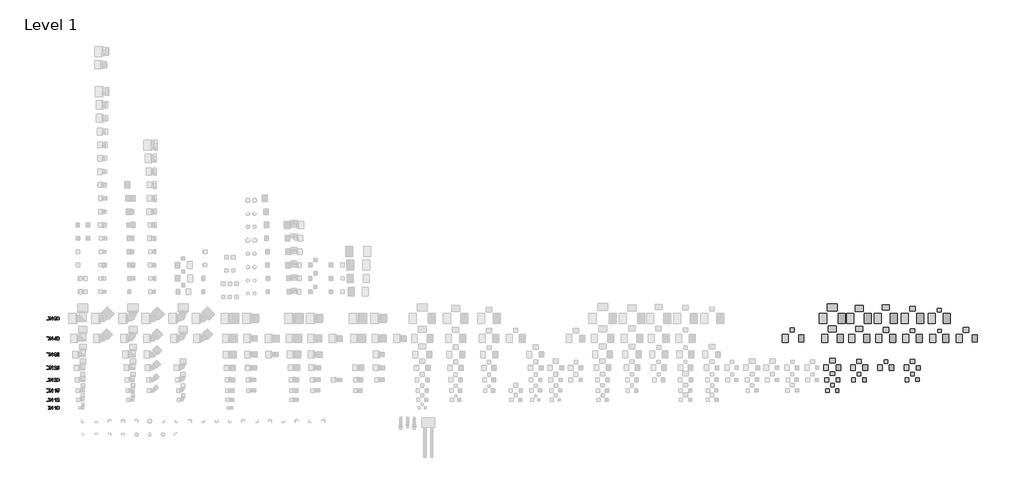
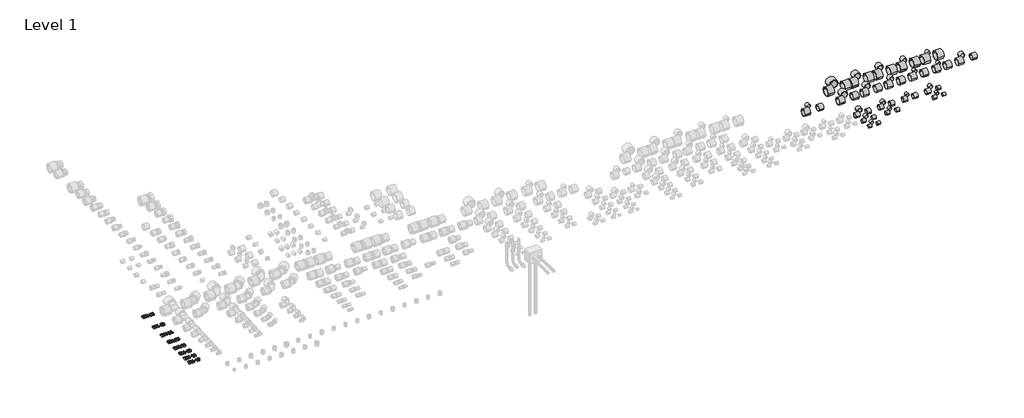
# One storey, part 6 of 6: 60 pipe fittings, 8 proxies.
"""IFC4 building model written with IfcOpenShell, lengths in millimetres."""

import ifcopenshell
import ifcopenshell.guid

model = None  # the IFC model being written
_history = None  # IfcOwnerHistory: only IFC2X3 demands one
_inside = {}  # id of a spatial element -> (the spatial element, [elements in it])
_under = {}  # id of a project, library or spatial element -> (it, [spatial elements below it])
_declared = {}  # id of a project -> (the project, [libraries it declares])
_typed = {}  # id of a type object -> (the type object, [elements of that type])
_made_of = {}  # id of a material, layer set ... -> (it, [elements and type objects made of it])


def new_model(schema):
    """Start an empty IFC model of exactly this schema.

    Asked for "IFC4X3", IfcOpenShell would pick the latest addendum, in which some entities
    have other attributes; the version numbers below select the first issue.
    IFC2X3 requires an IfcOwnerHistory on every rooted entity: one is made here for all.
    """
    global model, _history
    if schema == "IFC4X3":
        model = ifcopenshell.file(schema_version=(4, 3, 0, 0))
    else:
        model = ifcopenshell.file(schema=schema)
    _inside.clear()
    _under.clear()
    _declared.clear()
    _typed.clear()
    _made_of.clear()
    _history = None
    if model.schema == "IFC2X3":
        org = make("IfcOrganization", Name="unknown")
        user = make(
            "IfcPersonAndOrganization",
            ThePerson=make("IfcPerson", FamilyName="unknown"),
            TheOrganization=org,
        )
        app = make(
            "IfcApplication",
            ApplicationDeveloper=org,
            Version="unknown",
            ApplicationFullName="unknown",
            ApplicationIdentifier="unknown",
        )
        _history = make(
            "IfcOwnerHistory",
            OwningUser=user,
            OwningApplication=app,
            ChangeAction="ADDED",
            CreationDate=0,
        )
    return model


def make(cls, **values):
    """One entity of the class cls with the attributes given. An attribute that is None is left unset."""
    return model.create_entity(
        cls, **{name: value for name, value in values.items() if value is not None}
    )


def rooted(cls, **values):
    """An entity with a GlobalId (a new one), such as an element, a storey or a relation."""
    return make(cls, GlobalId=ifcopenshell.guid.new(), OwnerHistory=_history, **values)


def si_unit(unit_type, name, prefix=None):
    """IfcSIUnit, for example si_unit("LENGTHUNIT", "METRE", prefix="MILLI")."""
    return make("IfcSIUnit", UnitType=unit_type, Prefix=prefix, Name=name)


def assignment(units):
    """IfcUnitAssignment: the units of a project."""
    return None if units is None else make("IfcUnitAssignment", Units=units)


def point(xyz):
    """IfcCartesianPoint."""
    return None if xyz is None else make("IfcCartesianPoint", Coordinates=xyz)


def direction(xyz):
    """IfcDirection."""
    return None if xyz is None else make("IfcDirection", DirectionRatios=xyz)


def frame(location, z_axis=None, x_axis=None):
    """IfcAxis2Placement3D, a coordinate frame: its origin and axes. An axis left out is left unset."""
    return make(
        "IfcAxis2Placement3D",
        Location=point(location),
        Axis=direction(z_axis),
        RefDirection=direction(x_axis),
    )


def frame_2d(location, x_axis=None):
    """IfcAxis2Placement2D, a coordinate frame in the plane: its origin and x axis."""
    return make(
        "IfcAxis2Placement2D", Location=point(location), RefDirection=direction(x_axis)
    )


def origin():
    """The frame at (0, 0, 0) with its axes left unset."""
    return frame((0.0, 0.0, 0.0))


def origin_with_axes():
    """The frame at (0, 0, 0) with the z axis (0, 0, 1) and the x axis (1, 0, 0) written out."""
    return frame((0.0, 0.0, 0.0), z_axis=(0.0, 0.0, 1.0), x_axis=(1.0, 0.0, 0.0))


def origin_2d():
    """The frame at (0, 0) in the plane with its x axis left unset."""
    return frame_2d((0.0, 0.0))


def place(relative_to, where):
    """IfcLocalPlacement: puts the frame where relative to a parent placement (None: the world)."""
    return make(
        "IfcLocalPlacement", PlacementRelTo=relative_to, RelativePlacement=where
    )


def context(
    kind, dimensions, precision=None, world=None, true_north=None, identifier=None
):
    """IfcGeometricRepresentationContext, for example the 3D "Model" context."""
    return make(
        "IfcGeometricRepresentationContext",
        ContextIdentifier=identifier,
        ContextType=kind,
        CoordinateSpaceDimension=dimensions,
        Precision=precision,
        WorldCoordinateSystem=world,
        TrueNorth=true_north,
    )


def project(units=None, contexts=None):
    """IfcProject with its units and contexts."""
    return rooted(
        "IfcProject",
        Name="project",
        RepresentationContexts=contexts,
        UnitsInContext=assignment(units),
    )


def spatial(cls, under=None, at=None, **own):
    """A site, building, storey or space (cls), placed at a placement, below another one or the project."""
    s = rooted(cls, ObjectPlacement=at, **own)
    if under is not None:
        _under.setdefault(under.id(), (under, []))[1].append(s)
    return s


def polyline(points):
    """IfcPolyline through the points."""
    return make("IfcPolyline", Points=[point(p) for p in points])


def circle_curve(where, radius):
    """IfcCircle in the frame where."""
    return make("IfcCircle", Position=where, Radius=radius)


def trimmed(basis, trim1, trim2, sense, master):
    """IfcTrimmedCurve: the piece of a basis curve between two trims."""
    return make(
        "IfcTrimmedCurve",
        BasisCurve=basis,
        Trim1=trim1,
        Trim2=trim2,
        SenseAgreement=sense,
        MasterRepresentation=master,
    )


def segment(curve, same_sense, transition):
    """IfcCompositeCurveSegment."""
    return make(
        "IfcCompositeCurveSegment",
        Transition=transition,
        SameSense=same_sense,
        ParentCurve=curve,
    )


def composite_curve(segments, self_intersect=None):
    """IfcCompositeCurve: segments joined end to end."""
    return make("IfcCompositeCurve", Segments=segments, SelfIntersect=self_intersect)


def outline(outer, holes=None, kind="AREA"):
    """IfcArbitraryClosedProfileDef: a profile drawn as a closed curve; with holes, ...WithVoids."""
    if holes is None:
        return make("IfcArbitraryClosedProfileDef", ProfileType=kind, OuterCurve=outer)
    return make(
        "IfcArbitraryProfileDefWithVoids",
        ProfileType=kind,
        OuterCurve=outer,
        InnerCurves=holes,
    )


def extrude(swept, where, along, depth):
    """IfcExtrudedAreaSolid: the profile swept, set in the frame where, extruded along a direction by depth."""
    return make(
        "IfcExtrudedAreaSolid",
        SweptArea=swept,
        Position=where,
        ExtrudedDirection=direction(along),
        Depth=depth,
    )


def shape(context_of_items, identifier, shape_type, items):
    """IfcShapeRepresentation: the items that make up one representation, for example the "Body"."""
    return make(
        "IfcShapeRepresentation",
        ContextOfItems=context_of_items,
        RepresentationIdentifier=identifier,
        RepresentationType=shape_type,
        Items=items,
    )


def source(mapping_origin, context_of_items, identifier, shape_type, items):
    """IfcRepresentationMap: a shape defined once, which mapped items show again and again."""
    return make(
        "IfcRepresentationMap",
        MappingOrigin=mapping_origin,
        MappedRepresentation=shape(context_of_items, identifier, shape_type, items),
    )


def transform(
    local_origin,
    x_axis=None,
    y_axis=None,
    z_axis=None,
    scale=None,
    scale2=None,
    scale3=None,
    uniform=True,
):
    """IfcCartesianTransformationOperator3D, or its non-uniform kind. x_axis, y_axis, z_axis: its Axis1, 2, 3."""
    if uniform:
        return make(
            "IfcCartesianTransformationOperator3D",
            Axis1=direction(x_axis),
            Axis2=direction(y_axis),
            LocalOrigin=point(local_origin),
            Scale=scale,
            Axis3=direction(z_axis),
        )
    return make(
        "IfcCartesianTransformationOperator3DnonUniform",
        Axis1=direction(x_axis),
        Axis2=direction(y_axis),
        LocalOrigin=point(local_origin),
        Scale=scale,
        Axis3=direction(z_axis),
        Scale2=scale2,
        Scale3=scale3,
    )


def mapped(mapping_source, mapping_target):
    """IfcMappedItem: shows the shape of a source again, moved by a transform."""
    return make(
        "IfcMappedItem", MappingSource=mapping_source, MappingTarget=mapping_target
    )


def made_of(thing, what):
    """Note that an element or type object is made of a material, layer set ...; save() writes the relation."""
    if what is not None:
        _made_of.setdefault(what.id(), (what, []))[1].append(thing)
    return thing


def element(
    cls,
    number,
    at=None,
    inside=None,
    cuts=None,
    type_object=None,
    material=None,
    context=None,
    identifier="Body",
    shape_type=None,
    held_by="IfcProductDefinitionShape",
    body=None,
    shapes=None,
    **own,
):
    """One element of the class cls, such as IfcWall. Its Tag is "e" and its number.

    at: its placement. inside: the storey or other place that contains it. cuts: it is an
    opening in that element (IfcRelVoidsElement). A single representation is given by context,
    identifier, shape_type and body (its items); several are given by shapes. held_by: the class
    of the entity that holds the representations. save() writes the other relations.
    """
    e = rooted(cls, Tag="e%d" % number, ObjectPlacement=at, **own)
    if body is not None:
        shapes = [shape(context, identifier, shape_type, body)]
    if shapes is not None:
        e.Representation = make(held_by, Representations=shapes)
    if inside is not None:
        _inside.setdefault(inside.id(), (inside, []))[1].append(e)
    if cuts is not None:
        rooted(
            "IfcRelVoidsElement", RelatingBuildingElement=cuts, RelatedOpeningElement=e
        )
    if type_object is not None:
        _typed.setdefault(type_object.id(), (type_object, []))[1].append(e)
    return made_of(e, material)


def aggregate(whole, parts):
    """IfcRelAggregates: a whole, such as a stair, and the parts it consists of."""
    return rooted("IfcRelAggregates", RelatingObject=whole, RelatedObjects=parts)


def save(model, path):
    """Write the relations noted so far, then the file.

    IfcRelAggregates (storeys below a building ...), IfcRelContainedInSpatialStructure (elements
    in a storey), IfcRelDefinesByType, IfcRelAssociatesMaterial and IfcRelDeclares: one each for
    every whole, place, type object, material and project.
    """
    for whole, parts in _under.values():
        aggregate(whole, parts)
    for where, things in _inside.values():
        rooted(
            "IfcRelContainedInSpatialStructure",
            RelatedElements=things,
            RelatingStructure=where,
        )
    for kind, things in _typed.values():
        rooted("IfcRelDefinesByType", RelatedObjects=things, RelatingType=kind)
    for what, things in _made_of.values():
        rooted("IfcRelAssociatesMaterial", RelatedObjects=things, RelatingMaterial=what)
    for by, libraries in _declared.values():
        rooted("IfcRelDeclares", RelatingContext=by, RelatedDefinitions=libraries)
    model.write(path)


def pipe_fitting_749d9a03(model_context):
    return source(origin(), model_context, "Body", "SweptSolid", [
        extrude(outline(composite_curve([segment(trimmed(circle_curve(origin_2d(), 13.15), [point((-13.15, 0.0))], [point((13.15, 0.0))], False, "CARTESIAN"), True, "CONTINUOUS"), segment(trimmed(circle_curve(origin_2d(), 13.15), [point((13.15, 0.0))], [point((-13.15, 0.0))], False, "CARTESIAN"), True, "CONTINUOUS")], self_intersect=False), holes=[composite_curve([segment(trimmed(circle_curve(origin_2d(), 10.35), [point((-10.35, 0.0))], [point((10.35, 0.0))], True, "CARTESIAN"), True, "CONTINUOUS"), segment(trimmed(circle_curve(origin_2d(), 10.35), [point((10.35, 0.0))], [point((-10.35, 0.0))], True, "CARTESIAN"), True, "CONTINUOUS")], self_intersect=False)]), frame((0.0, 0.0, 0.0), z_axis=(1.0, 0.0, 0.0), x_axis=(0.0, 1.0, 0.0)), (0.0, 0.0, 1.0), 25.0),
    ])


def pipe_fitting_037c3912(model_context):
    return source(origin(), model_context, "Body", "SweptSolid", [
        extrude(outline(composite_curve([segment(trimmed(circle_curve(origin_2d(), 16.3), [point((-16.3, 0.0))], [point((16.3, 0.0))], False, "CARTESIAN"), True, "CONTINUOUS"), segment(trimmed(circle_curve(origin_2d(), 16.3), [point((16.3, 0.0))], [point((-16.3, 0.0))], False, "CARTESIAN"), True, "CONTINUOUS")], self_intersect=False), holes=[composite_curve([segment(trimmed(circle_curve(origin_2d(), 12.8), [point((-12.8, 0.0))], [point((12.8, 0.0))], True, "CARTESIAN"), True, "CONTINUOUS"), segment(trimmed(circle_curve(origin_2d(), 12.8), [point((12.8, 0.0))], [point((-12.8, 0.0))], True, "CARTESIAN"), True, "CONTINUOUS")], self_intersect=False)]), frame((0.0, 0.0, 0.0), z_axis=(1.0, 0.0, 0.0), x_axis=(0.0, 1.0, 0.0)), (0.0, 0.0, 1.0), 27.2),
    ])


def pipe_fitting_a8fbe6ac(model_context):
    return source(origin(), model_context, "Body", "SweptSolid", [
        extrude(outline(composite_curve([segment(trimmed(circle_curve(origin_2d(), 20.75), [point((-20.75, 0.0))], [point((20.75, 0.0))], False, "CARTESIAN"), True, "CONTINUOUS"), segment(trimmed(circle_curve(origin_2d(), 20.75), [point((20.75, 0.0))], [point((-20.75, 0.0))], False, "CARTESIAN"), True, "CONTINUOUS")], self_intersect=False), holes=[composite_curve([segment(trimmed(circle_curve(origin_2d(), 16.35), [point((-16.35, 0.0))], [point((16.35, 0.0))], True, "CARTESIAN"), True, "CONTINUOUS"), segment(trimmed(circle_curve(origin_2d(), 16.35), [point((16.35, 0.0))], [point((-16.35, 0.0))], True, "CARTESIAN"), True, "CONTINUOUS")], self_intersect=False)]), frame((0.0, 0.0, 0.0), z_axis=(1.0, 0.0, 0.0), x_axis=(0.0, 1.0, 0.0)), (0.0, 0.0, 1.0), 34.0),
    ])


def pipe_fitting_d8f8e9d9(model_context):
    return source(origin(), model_context, "Body", "SweptSolid", [
        extrude(outline(composite_curve([segment(trimmed(circle_curve(origin_2d(), 25.95), [point((-25.95, 0.0))], [point((25.95, 0.0))], False, "CARTESIAN"), True, "CONTINUOUS"), segment(trimmed(circle_curve(origin_2d(), 25.95), [point((25.95, 0.0))], [point((-25.95, 0.0))], False, "CARTESIAN"), True, "CONTINUOUS")], self_intersect=False), holes=[composite_curve([segment(trimmed(circle_curve(origin_2d(), 20.45), [point((-20.45, 0.0))], [point((20.45, 0.0))], True, "CARTESIAN"), True, "CONTINUOUS"), segment(trimmed(circle_curve(origin_2d(), 20.45), [point((20.45, 0.0))], [point((-20.45, 0.0))], True, "CARTESIAN"), True, "CONTINUOUS")], self_intersect=False)]), frame((0.0, 0.0, 0.0), z_axis=(1.0, 0.0, 0.0), x_axis=(0.0, 1.0, 0.0)), (0.0, 0.0, 1.0), 37.8),
    ])


def pipe_fitting_02b715f6(model_context):
    return source(origin(), model_context, "Body", "SweptSolid", [
        extrude(outline(composite_curve([segment(trimmed(circle_curve(origin_2d(), 30.05), [point((-30.05, 0.0))], [point((30.05, 0.0))], False, "CARTESIAN"), True, "CONTINUOUS"), segment(trimmed(circle_curve(origin_2d(), 30.05), [point((30.05, 0.0))], [point((-30.05, 0.0))], False, "CARTESIAN"), True, "CONTINUOUS")], self_intersect=False), holes=[composite_curve([segment(trimmed(circle_curve(origin_2d(), 25.55), [point((-25.55, 0.0))], [point((25.55, 0.0))], True, "CARTESIAN"), True, "CONTINUOUS"), segment(trimmed(circle_curve(origin_2d(), 25.55), [point((25.55, 0.0))], [point((-25.55, 0.0))], True, "CARTESIAN"), True, "CONTINUOUS")], self_intersect=False)]), frame((0.0, 0.0, 0.0), z_axis=(1.0, 0.0, 0.0), x_axis=(0.0, 1.0, 0.0)), (0.0, 0.0, 1.0), 45.0),
    ])


def pipe_fitting_7a5bf8d1(model_context):
    return source(origin(), model_context, "Body", "SweptSolid", [
        extrude(outline(composite_curve([segment(trimmed(circle_curve(origin_2d(), 38.15), [point((-38.15, 0.0))], [point((38.15, 0.0))], False, "CARTESIAN"), True, "CONTINUOUS"), segment(trimmed(circle_curve(origin_2d(), 38.15), [point((38.15, 0.0))], [point((-38.15, 0.0))], False, "CARTESIAN"), True, "CONTINUOUS")], self_intersect=False), holes=[composite_curve([segment(trimmed(circle_curve(origin_2d(), 32.15), [point((-32.15, 0.0))], [point((32.15, 0.0))], True, "CARTESIAN"), True, "CONTINUOUS"), segment(trimmed(circle_curve(origin_2d(), 32.15), [point((32.15, 0.0))], [point((-32.15, 0.0))], True, "CARTESIAN"), True, "CONTINUOUS")], self_intersect=False)]), frame((0.0, 0.0, 0.0), z_axis=(1.0, 0.0, 0.0), x_axis=(0.0, 1.0, 0.0)), (0.0, 0.0, 1.0), 53.0),
    ])


model = new_model("IFC4")

# Units and contexts
model_context = context("Model", 3, world=origin())
ifc_project = project(units=[si_unit("LENGTHUNIT", "METRE", prefix="MILLI")], contexts=[model_context])

# Site, building, storey
site = spatial("IfcSite", under=ifc_project)
building = spatial("IfcBuilding", under=site)
storey = spatial("IfcBuildingStorey", under=building, Name="Level 1", Elevation=0.0)

# Proxies
placement = place(None, origin())
element("IfcBuildingElementProxy", 1, Name="REHAU text", ObjectType="REHAU text", at=placement, inside=storey, context=model_context, shape_type="SweptSolid", body=[
    extrude(outline(polyline([(-272.2922223, -12.5), (-272.2922223, 12.6140775), (-263.6286013, 12.6140775), (-259.1465723, 12.2523269), (-255.4554896, 10.4558365), (-252.4817768, 6.1638799), (-251.4946268, 0.1919288), (-252.1629458, -4.8756456), (-253.8797284, -8.5330058), (-256.1728595, -10.8108085), (-259.1741635, -12.0708043), (-263.2116683, -12.5), (-272.2922223, -12.5)]), holes=[polyline([(-269.1529626, -9.3607403), (-263.5979444, -9.3607403), (-259.5573739, -8.9070192), (-257.2274546, -7.6255636), (-255.3175339, -4.5077637), (-254.6338865, 0.2409798), (-255.9735901, 6.1884054), (-259.2324114, 8.9720458), (-263.6837836, 9.4748178), (-269.1529626, 9.4748178), (-269.1529626, -9.3607403)])]), origin_with_axes(), (0.0, 0.0, 1.0), 10.0),
    extrude(outline(polyline([(-247.1781447, -12.5), (-247.1781447, 12.6140775), (-243.8181558, 12.6140775), (-230.6970313, -7.282207), (-230.6970313, 12.6140775), (-227.5577716, 12.6140775), (-227.5577716, -12.5), (-230.9177605, -12.5), (-244.038885, 7.4024159), (-244.038885, -12.5), (-247.1781447, -12.5)])), origin_with_axes(), (0.0, 0.0, 1.0), 10.0),
    extrude(outline(polyline([(-201.6588792, -12.5), (-204.7981389, -12.5), (-204.7981389, 7.0713221), (-207.7718517, 4.952935), (-211.0766583, 3.3679767), (-211.0766583, 6.3355582), (-206.4750676, 9.2724827), (-203.6822302, 12.6140775), (-201.6588792, 12.6140775), (-201.6588792, -12.5)])), origin_with_axes(), (0.0, 0.0, 1.0), 10.0),
    extrude(outline(polyline([(-194.2031374, -0.1452963), (-193.2803667, 7.0805192), (-190.5396459, 11.2467828), (-185.9625807, 12.6140775), (-182.2960235, 11.8047371), (-179.7637691, 9.4717522), (-178.2922411, 5.756144), (-177.722024, -0.1452963), (-178.6355977, -7.340455), (-181.3671215, -11.5159157), (-185.9625807, -12.8924075), (-191.7015399, -10.5011745), (-194.2031374, -0.1452963)]), holes=[polyline([(-191.0638777, -0.139165), (-189.5923497, -7.9351976), (-185.9625807, -9.7531478), (-182.3328117, -7.9290662), (-180.8612837, -0.139165), (-182.2837608, 7.5679628), (-185.9993689, 9.4748178), (-189.5432988, 7.7948234), (-191.0638777, -0.139165)])]), origin_with_axes(), (0.0, 0.0, 1.0), 10.0),
])
element("IfcBuildingElementProxy", 2, Name="REHAU text", ObjectType="REHAU text", at=placement, inside=storey, context=model_context, shape_type="SweptSolid", body=[
    extrude(outline(polyline([(-272.2922223, 47.5), (-272.2922223, 72.6140775), (-263.6286013, 72.6140775), (-259.1465723, 72.2523269), (-255.4554896, 70.4558365), (-252.4817768, 66.1638799), (-251.4946268, 60.1919288), (-252.1629458, 55.1243544), (-253.8797284, 51.4669942), (-256.1728595, 49.1891915), (-259.1741635, 47.9291957), (-263.2116683, 47.5), (-272.2922223, 47.5)]), holes=[polyline([(-269.1529626, 50.6392597), (-263.5979444, 50.6392597), (-259.5573739, 51.0929808), (-257.2274546, 52.3744364), (-255.3175339, 55.4922363), (-254.6338865, 60.2409798), (-255.9735901, 66.1884054), (-259.2324114, 68.9720458), (-263.6837836, 69.4748178), (-269.1529626, 69.4748178), (-269.1529626, 50.6392597)])]), origin_with_axes(), (0.0, 0.0, 1.0), 10.0),
    extrude(outline(polyline([(-247.1781447, 47.5), (-247.1781447, 72.6140775), (-243.8181558, 72.6140775), (-230.6970313, 52.717793), (-230.6970313, 72.6140775), (-227.5577716, 72.6140775), (-227.5577716, 47.5), (-230.9177605, 47.5), (-244.038885, 67.4024159), (-244.038885, 47.5), (-247.1781447, 47.5)])), origin_with_axes(), (0.0, 0.0, 1.0), 10.0),
    extrude(outline(polyline([(-201.6588792, 47.5), (-204.7981389, 47.5), (-204.7981389, 67.0713221), (-207.7718517, 64.952935), (-211.0766583, 63.3679767), (-211.0766583, 66.3355582), (-206.4750676, 69.2724827), (-203.6822302, 72.6140775), (-201.6588792, 72.6140775), (-201.6588792, 47.5)])), origin_with_axes(), (0.0, 0.0, 1.0), 10.0),
    extrude(outline(polyline([(-178.1144315, 50.6392597), (-178.1144315, 47.5), (-194.5955449, 47.5), (-194.2583197, 49.6643724), (-192.3514647, 52.9967701), (-188.4212587, 56.6357362), (-183.0011307, 61.8657919), (-181.6460987, 65.4219845), (-182.9244886, 68.3006611), (-186.2630177, 69.4748178), (-189.7425682, 68.3282523), (-191.0638777, 65.1583358), (-194.2031374, 65.5507432), (-191.796576, 70.8053244), (-186.1955727, 72.6140775), (-180.5761752, 70.6029893), (-178.506839, 65.6120569), (-179.0647933, 62.6352784), (-180.9195317, 59.5573324), (-185.4168891, 55.2561787), (-189.028264, 52.2364807), (-190.4446097, 50.6392597), (-178.1144315, 50.6392597)])), origin_with_axes(), (0.0, 0.0, 1.0), 10.0),
])
element("IfcBuildingElementProxy", 3, Name="REHAU text", ObjectType="REHAU text", at=placement, inside=storey, context=model_context, shape_type="SweptSolid", body=[
    extrude(outline(polyline([(-272.2922223, 117.5), (-272.2922223, 142.6140775), (-263.6286013, 142.6140775), (-259.1465723, 142.2523269), (-255.4554896, 140.4558365), (-252.4817768, 136.1638799), (-251.4946268, 130.1919288), (-252.1629458, 125.1243544), (-253.8797284, 121.4669942), (-256.1728595, 119.1891915), (-259.1741635, 117.9291957), (-263.2116683, 117.5), (-272.2922223, 117.5)]), holes=[polyline([(-269.1529626, 120.6392597), (-263.5979444, 120.6392597), (-259.5573739, 121.0929808), (-257.2274546, 122.3744364), (-255.3175339, 125.4922363), (-254.6338865, 130.2409798), (-255.9735901, 136.1884054), (-259.2324114, 138.9720458), (-263.6837836, 139.4748178), (-269.1529626, 139.4748178), (-269.1529626, 120.6392597)])]), origin_with_axes(), (0.0, 0.0, 1.0), 10.0),
    extrude(outline(polyline([(-247.1781447, 117.5), (-247.1781447, 142.6140775), (-243.8181558, 142.6140775), (-230.6970313, 122.717793), (-230.6970313, 142.6140775), (-227.5577716, 142.6140775), (-227.5577716, 117.5), (-230.9177605, 117.5), (-244.038885, 137.4024159), (-244.038885, 117.5), (-247.1781447, 117.5)])), origin_with_axes(), (0.0, 0.0, 1.0), 10.0),
    extrude(outline(polyline([(-201.6588792, 117.5), (-204.7981389, 117.5), (-204.7981389, 137.0713221), (-207.7718517, 134.952935), (-211.0766583, 133.3679767), (-211.0766583, 136.3355582), (-206.4750676, 139.2724827), (-203.6822302, 142.6140775), (-201.6588792, 142.6140775), (-201.6588792, 117.5)])), origin_with_axes(), (0.0, 0.0, 1.0), 10.0),
    extrude(outline(polyline([(-194.2031374, 124.1709268), (-191.0638777, 124.5633343), (-189.4819851, 121.3290384), (-186.201704, 120.2468522), (-182.2653667, 121.7521027), (-180.8612837, 125.7466881), (-182.1764619, 129.4745589), (-186.1526531, 130.8418537), (-188.9087024, 130.2961621), (-190.6714703, 128.8798164), (-193.81073, 129.2722238), (-191.0638777, 142.2216701), (-178.8992464, 142.2216701), (-178.8992464, 139.0824104), (-188.525492, 139.0824104), (-189.8682612, 132.1662289), (-185.2758677, 133.9811134), (-179.9078562, 131.7309018), (-177.722024, 125.9428918), (-179.6901927, 120.1180935), (-186.2139668, 117.1075925), (-191.7536565, 119.0420387), (-194.2031374, 124.1709268)])), origin_with_axes(), (0.0, 0.0, 1.0), 10.0),
])
element("IfcBuildingElementProxy", 4, Name="REHAU text", ObjectType="REHAU text", at=placement, inside=storey, context=model_context, shape_type="SweptSolid", body=[
    extrude(outline(polyline([(-272.2922223, 197.5), (-272.2922223, 222.6140775), (-263.6286013, 222.6140775), (-259.1465723, 222.2523269), (-255.4554896, 220.4558365), (-252.4817768, 216.1638799), (-251.4946268, 210.1919288), (-252.1629458, 205.1243544), (-253.8797284, 201.4669942), (-256.1728595, 199.1891915), (-259.1741635, 197.9291957), (-263.2116683, 197.5), (-272.2922223, 197.5)]), holes=[polyline([(-269.1529626, 200.6392597), (-263.5979444, 200.6392597), (-259.5573739, 201.0929808), (-257.2274546, 202.3744364), (-255.3175339, 205.4922363), (-254.6338865, 210.2409798), (-255.9735901, 216.1884054), (-259.2324114, 218.9720458), (-263.6837836, 219.4748178), (-269.1529626, 219.4748178), (-269.1529626, 200.6392597)])]), origin_with_axes(), (0.0, 0.0, 1.0), 10.0),
    extrude(outline(polyline([(-247.1781447, 197.5), (-247.1781447, 222.6140775), (-243.8181558, 222.6140775), (-230.6970313, 202.717793), (-230.6970313, 222.6140775), (-227.5577716, 222.6140775), (-227.5577716, 197.5), (-230.9177605, 197.5), (-244.038885, 217.4024159), (-244.038885, 197.5), (-247.1781447, 197.5)])), origin_with_axes(), (0.0, 0.0, 1.0), 10.0),
    extrude(outline(polyline([(-197.3423971, 200.6392597), (-197.3423971, 197.5), (-213.8235105, 197.5), (-213.4862853, 199.6643724), (-211.5794303, 202.9967701), (-207.6492243, 206.6357362), (-202.2290963, 211.8657919), (-200.8740643, 215.4219845), (-202.1524542, 218.3006611), (-205.4909833, 219.4748178), (-208.9705338, 218.3282523), (-210.2918433, 215.1583358), (-213.431103, 215.5507432), (-211.0245416, 220.8053244), (-205.4235383, 222.6140775), (-199.8041408, 220.6029893), (-197.7348046, 215.6120569), (-198.2927589, 212.6352784), (-200.1474973, 209.5573324), (-204.6448547, 205.2561787), (-208.2562296, 202.2364807), (-209.6725753, 200.6392597), (-197.3423971, 200.6392597)])), origin_with_axes(), (0.0, 0.0, 1.0), 10.0),
    extrude(outline(polyline([(-194.2031374, 209.8547037), (-193.2803667, 217.0805192), (-190.5396459, 221.2467828), (-185.9625807, 222.6140775), (-182.2960235, 221.8047371), (-179.7637691, 219.4717522), (-178.2922411, 215.756144), (-177.722024, 209.8547037), (-178.6355977, 202.659545), (-181.3671215, 198.4840843), (-185.9625807, 197.1075925), (-191.7015399, 199.4988255), (-194.2031374, 209.8547037)]), holes=[polyline([(-191.0638777, 209.860835), (-189.5923497, 202.0648024), (-185.9625807, 200.2468522), (-182.3328117, 202.0709338), (-180.8612837, 209.860835), (-182.2837608, 217.5679628), (-185.9993689, 219.4748178), (-189.5432988, 217.7948234), (-191.0638777, 209.860835)])]), origin_with_axes(), (0.0, 0.0, 1.0), 10.0),
])
element("IfcBuildingElementProxy", 5, Name="REHAU text", ObjectType="REHAU text", at=placement, inside=storey, context=model_context, shape_type="SweptSolid", body=[
    extrude(outline(polyline([(-272.2922223, 287.5), (-272.2922223, 312.6140775), (-263.6286013, 312.6140775), (-259.1465723, 312.2523269), (-255.4554896, 310.4558365), (-252.4817768, 306.1638799), (-251.4946268, 300.1919288), (-252.1629458, 295.1243544), (-253.8797284, 291.4669942), (-256.1728595, 289.1891915), (-259.1741635, 287.9291957), (-263.2116683, 287.5), (-272.2922223, 287.5)]), holes=[polyline([(-269.1529626, 290.6392597), (-263.5979444, 290.6392597), (-259.5573739, 291.0929808), (-257.2274546, 292.3744364), (-255.3175339, 295.4922363), (-254.6338865, 300.2409798), (-255.9735901, 306.1884054), (-259.2324114, 308.9720458), (-263.6837836, 309.4748178), (-269.1529626, 309.4748178), (-269.1529626, 290.6392597)])]), origin_with_axes(), (0.0, 0.0, 1.0), 10.0),
    extrude(outline(polyline([(-247.1781447, 287.5), (-247.1781447, 312.6140775), (-243.8181558, 312.6140775), (-230.6970313, 292.717793), (-230.6970313, 312.6140775), (-227.5577716, 312.6140775), (-227.5577716, 287.5), (-230.9177605, 287.5), (-244.038885, 307.4024159), (-244.038885, 287.5), (-247.1781447, 287.5)])), origin_with_axes(), (0.0, 0.0, 1.0), 10.0),
    extrude(outline(polyline([(-197.3423971, 290.6392597), (-197.3423971, 287.5), (-213.8235105, 287.5), (-213.4862853, 289.6643724), (-211.5794303, 292.9967701), (-207.6492243, 296.6357362), (-202.2290963, 301.8657919), (-200.8740643, 305.4219845), (-202.1524542, 308.3006611), (-205.4909833, 309.4748178), (-208.9705338, 308.3282523), (-210.2918433, 305.1583358), (-213.431103, 305.5507432), (-211.0245416, 310.8053244), (-205.4235383, 312.6140775), (-199.8041408, 310.6029893), (-197.7348046, 305.6120569), (-198.2927589, 302.6352784), (-200.1474973, 299.5573324), (-204.6448547, 295.2561787), (-208.2562296, 292.2364807), (-209.6725753, 290.6392597), (-197.3423971, 290.6392597)])), origin_with_axes(), (0.0, 0.0, 1.0), 10.0),
    extrude(outline(polyline([(-194.2031374, 294.1709268), (-191.0638777, 294.5633343), (-189.4819851, 291.3290384), (-186.201704, 290.2468522), (-182.2653667, 291.7521027), (-180.8612837, 295.7466881), (-182.1764619, 299.4745589), (-186.1526531, 300.8418537), (-188.9087024, 300.2961621), (-190.6714703, 298.8798164), (-193.81073, 299.2722238), (-191.0638777, 312.2216701), (-178.8992464, 312.2216701), (-178.8992464, 309.0824104), (-188.525492, 309.0824104), (-189.8682612, 302.1662289), (-185.2758677, 303.9811134), (-179.9078562, 301.7309018), (-177.722024, 295.9428918), (-179.6901927, 290.1180935), (-186.2139668, 287.1075925), (-191.7536565, 289.0420387), (-194.2031374, 294.1709268)])), origin_with_axes(), (0.0, 0.0, 1.0), 10.0),
])
element("IfcBuildingElementProxy", 6, Name="REHAU text", ObjectType="REHAU text", at=placement, inside=storey, context=model_context, shape_type="SweptSolid", body=[
    extrude(outline(polyline([(-272.2922223, 387.5), (-272.2922223, 412.6140775), (-263.6286013, 412.6140775), (-259.1465723, 412.2523269), (-255.4554896, 410.4558365), (-252.4817768, 406.1638799), (-251.4946268, 400.1919288), (-252.1629458, 395.1243544), (-253.8797284, 391.4669942), (-256.1728595, 389.1891915), (-259.1741635, 387.9291957), (-263.2116683, 387.5), (-272.2922223, 387.5)]), holes=[polyline([(-269.1529626, 390.6392597), (-263.5979444, 390.6392597), (-259.5573739, 391.0929808), (-257.2274546, 392.3744364), (-255.3175339, 395.4922363), (-254.6338865, 400.2409798), (-255.9735901, 406.1884054), (-259.2324114, 408.9720458), (-263.6837836, 409.4748178), (-269.1529626, 409.4748178), (-269.1529626, 390.6392597)])]), origin_with_axes(), (0.0, 0.0, 1.0), 10.0),
    extrude(outline(polyline([(-247.1781447, 387.5), (-247.1781447, 412.6140775), (-243.8181558, 412.6140775), (-230.6970313, 392.717793), (-230.6970313, 412.6140775), (-227.5577716, 412.6140775), (-227.5577716, 387.5), (-230.9177605, 387.5), (-244.038885, 407.4024159), (-244.038885, 387.5), (-247.1781447, 387.5)])), origin_with_axes(), (0.0, 0.0, 1.0), 10.0),
    extrude(outline(polyline([(-213.431103, 394.1709268), (-210.2918433, 394.5633343), (-208.5597323, 391.2585277), (-205.319305, 390.2468522), (-201.505595, 391.6386724), (-200.0892493, 395.0845005), (-201.4933323, 398.3310591), (-205.0617876, 399.6155804), (-207.2629482, 399.2722238), (-206.9134604, 402.4114835), (-202.8483643, 403.2760062), (-201.2664717, 406.0473839), (-202.4130373, 408.5029962), (-205.368356, 409.4748178), (-208.3604629, 408.4937992), (-209.8994359, 405.5507432), (-213.0386956, 405.9431507), (-210.469653, 410.8666381), (-205.4787206, 412.6140775), (-201.6926017, 411.7526205), (-199.0438513, 409.3981758), (-198.127212, 406.2313249), (-198.9978661, 403.3373199), (-201.5730401, 401.2587866), (-198.1517375, 399.1128083), (-196.9499897, 395.0293182), (-199.3534854, 389.4129864), (-205.4296696, 387.1075925), (-210.9356368, 389.0757612), (-213.431103, 394.1709268)])), origin_with_axes(), (0.0, 0.0, 1.0), 10.0),
    extrude(outline(polyline([(-178.1144315, 390.6392597), (-178.1144315, 387.5), (-194.5955449, 387.5), (-194.2583197, 389.6643724), (-192.3514647, 392.9967701), (-188.4212587, 396.6357362), (-183.0011307, 401.8657919), (-181.6460987, 405.4219845), (-182.9244886, 408.3006611), (-186.2630177, 409.4748178), (-189.7425682, 408.3282523), (-191.0638777, 405.1583358), (-194.2031374, 405.5507432), (-191.796576, 410.8053244), (-186.1955727, 412.6140775), (-180.5761752, 410.6029893), (-178.506839, 405.6120569), (-179.0647933, 402.6352784), (-180.9195317, 399.5573324), (-185.4168891, 395.2561787), (-189.028264, 392.2364807), (-190.4446097, 390.6392597), (-178.1144315, 390.6392597)])), origin_with_axes(), (0.0, 0.0, 1.0), 10.0),
])
element("IfcBuildingElementProxy", 7, Name="REHAU text", ObjectType="REHAU text", at=placement, inside=storey, context=model_context, shape_type="SweptSolid", body=[
    extrude(outline(polyline([(-272.2922223, 507.5), (-272.2922223, 532.6140775), (-263.6286013, 532.6140775), (-259.1465723, 532.2523269), (-255.4554896, 530.4558365), (-252.4817768, 526.1638799), (-251.4946268, 520.1919288), (-252.1629458, 515.1243544), (-253.8797284, 511.4669942), (-256.1728595, 509.1891915), (-259.1741635, 507.9291957), (-263.2116683, 507.5), (-272.2922223, 507.5)]), holes=[polyline([(-269.1529626, 510.6392597), (-263.5979444, 510.6392597), (-259.5573739, 511.0929808), (-257.2274546, 512.3744364), (-255.3175339, 515.4922363), (-254.6338865, 520.2409798), (-255.9735901, 526.1884054), (-259.2324114, 528.9720458), (-263.6837836, 529.4748178), (-269.1529626, 529.4748178), (-269.1529626, 510.6392597)])]), origin_with_axes(), (0.0, 0.0, 1.0), 10.0),
    extrude(outline(polyline([(-247.1781447, 507.5), (-247.1781447, 532.6140775), (-243.8181558, 532.6140775), (-230.6970313, 512.717793), (-230.6970313, 532.6140775), (-227.5577716, 532.6140775), (-227.5577716, 507.5), (-230.9177605, 507.5), (-244.038885, 527.4024159), (-244.038885, 507.5), (-247.1781447, 507.5)])), origin_with_axes(), (0.0, 0.0, 1.0), 10.0),
    extrude(outline(polyline([(-203.228509, 507.5), (-203.228509, 513.3861119), (-214.6083254, 513.3861119), (-214.6083254, 516.5253716), (-202.4436941, 532.2216701), (-200.0892493, 532.2216701), (-200.0892493, 516.5253716), (-196.9499897, 516.5253716), (-196.9499897, 513.3861119), (-200.0892493, 513.3861119), (-200.0892493, 507.5), (-203.228509, 507.5)]), holes=[polyline([(-203.228509, 516.5253716), (-203.228509, 526.2251936), (-210.7455645, 516.5253716), (-203.228509, 516.5253716)])]), origin_with_axes(), (0.0, 0.0, 1.0), 10.0),
    extrude(outline(polyline([(-194.2031374, 519.8547037), (-193.2803667, 527.0805192), (-190.5396459, 531.2467828), (-185.9625807, 532.6140775), (-182.2960235, 531.8047371), (-179.7637691, 529.4717522), (-178.2922411, 525.756144), (-177.722024, 519.8547037), (-178.6355977, 512.659545), (-181.3671215, 508.4840843), (-185.9625807, 507.1075925), (-191.7015399, 509.4988255), (-194.2031374, 519.8547037)]), holes=[polyline([(-191.0638777, 519.860835), (-189.5923497, 512.0648024), (-185.9625807, 510.2468522), (-182.3328117, 512.0709338), (-180.8612837, 519.860835), (-182.2837608, 527.5679628), (-185.9993689, 529.4748178), (-189.5432988, 527.7948234), (-191.0638777, 519.860835)])]), origin_with_axes(), (0.0, 0.0, 1.0), 10.0),
])
element("IfcBuildingElementProxy", 8, Name="REHAU text", ObjectType="REHAU text", at=placement, inside=storey, context=model_context, shape_type="SweptSolid", body=[
    extrude(outline(polyline([(-272.2922223, 657.5), (-272.2922223, 682.6140775), (-263.6286013, 682.6140775), (-259.1465723, 682.2523269), (-255.4554896, 680.4558365), (-252.4817768, 676.1638799), (-251.4946268, 670.1919288), (-252.1629458, 665.1243544), (-253.8797284, 661.4669942), (-256.1728595, 659.1891915), (-259.1741635, 657.9291957), (-263.2116683, 657.5), (-272.2922223, 657.5)]), holes=[polyline([(-269.1529626, 660.6392597), (-263.5979444, 660.6392597), (-259.5573739, 661.0929808), (-257.2274546, 662.3744364), (-255.3175339, 665.4922363), (-254.6338865, 670.2409798), (-255.9735901, 676.1884054), (-259.2324114, 678.9720458), (-263.6837836, 679.4748178), (-269.1529626, 679.4748178), (-269.1529626, 660.6392597)])]), origin_with_axes(), (0.0, 0.0, 1.0), 10.0),
    extrude(outline(polyline([(-247.1781447, 657.5), (-247.1781447, 682.6140775), (-243.8181558, 682.6140775), (-230.6970313, 662.717793), (-230.6970313, 682.6140775), (-227.5577716, 682.6140775), (-227.5577716, 657.5), (-230.9177605, 657.5), (-244.038885, 677.4024159), (-244.038885, 657.5), (-247.1781447, 657.5)])), origin_with_axes(), (0.0, 0.0, 1.0), 10.0),
    extrude(outline(polyline([(-213.431103, 664.1709268), (-210.2918433, 664.5633343), (-208.7099508, 661.3290384), (-205.4296696, 660.2468522), (-201.4933323, 661.7521027), (-200.0892493, 665.7466881), (-201.4044275, 669.4745589), (-205.3806187, 670.8418537), (-208.136668, 670.2961621), (-209.8994359, 668.8798164), (-213.0386956, 669.2722238), (-210.2918433, 682.2216701), (-198.127212, 682.2216701), (-198.127212, 679.0824104), (-207.7534576, 679.0824104), (-209.0962269, 672.1662289), (-204.5038333, 673.9811134), (-199.1358218, 671.7309018), (-196.9499897, 665.9428918), (-198.9181583, 660.1180935), (-205.4419324, 657.1075925), (-210.9816221, 659.0420387), (-213.431103, 664.1709268)])), origin_with_axes(), (0.0, 0.0, 1.0), 10.0),
    extrude(outline(polyline([(-194.2031374, 669.8547037), (-193.2803667, 677.0805192), (-190.5396459, 681.2467828), (-185.9625807, 682.6140775), (-182.2960235, 681.8047371), (-179.7637691, 679.4717522), (-178.2922411, 675.756144), (-177.722024, 669.8547037), (-178.6355977, 662.659545), (-181.3671215, 658.4840843), (-185.9625807, 657.1075925), (-191.7015399, 659.4988255), (-194.2031374, 669.8547037)]), holes=[polyline([(-191.0638777, 669.860835), (-189.5923497, 662.0648024), (-185.9625807, 660.2468522), (-182.3328117, 662.0709338), (-180.8612837, 669.860835), (-182.2837608, 677.5679628), (-185.9993689, 679.4748178), (-189.5432988, 677.7948234), (-191.0638777, 669.860835)])]), origin_with_axes(), (0.0, 0.0, 1.0), 10.0),
])

# Pipe fittings
pipe_fitting_shape = pipe_fitting_749d9a03(model_context)
element("IfcPipeFitting", 9, ObjectType="RAUTITAN_Sleeve PX : RTI S PX", at=placement, inside=storey, context=model_context, shape_type="MappedRepresentation", body=[
    mapped(pipe_fitting_shape, transform((5586.0, 130.0, 0.0), x_axis=(-1.0, 0.0, 0.0), y_axis=(0.0, -1.0, 0.0), z_axis=(0.0, 0.0, 1.0))),
])
element("IfcPipeFitting", 10, ObjectType="RAUTITAN_Sleeve PX : RTI S PX", at=placement, inside=storey, context=model_context, shape_type="MappedRepresentation", body=[
    mapped(pipe_fitting_shape, transform((5610.0, 157.0, 0.0), x_axis=(0.0, 1.0, 0.0), y_axis=(-1.0, 0.0, 0.0), z_axis=(0.0, 0.0, 1.0))),
])
element("IfcPipeFitting", 11, ObjectType="RAUTITAN_Sleeve PX : RTI S PX", at=placement, inside=storey, context=model_context, shape_type="MappedRepresentation", body=[
    mapped(pipe_fitting_shape, transform((5634.0, 130.0, 0.0), x_axis=(1.0, 0.0, 0.0), y_axis=(0.0, 1.0, 0.0), z_axis=(0.0, 0.0, 1.0))),
])
element("IfcPipeFitting", 12, ObjectType="RAUTITAN_Sleeve PX : RTI S PX", at=placement, inside=storey, context=model_context, shape_type="MappedRepresentation", body=[
    mapped(pipe_fitting_shape, transform((6010.0, 333.0, 0.0), x_axis=(0.0, 1.0, 0.0), y_axis=(-1.0, 0.0, 0.0), z_axis=(0.0, 0.0, 1.0))),
])
element("IfcPipeFitting", 13, ObjectType="RAUTITAN_Sleeve PX : RTI S PX", at=placement, inside=storey, context=model_context, shape_type="MappedRepresentation", body=[
    mapped(pipe_fitting_shape, transform((6410.0, 563.8, 0.0), x_axis=(0.0, 1.0, 0.0), y_axis=(-1.0, 0.0, 0.0), z_axis=(0.0, 0.0, 1.0))),
])
element("IfcPipeFitting", 14, ObjectType="RAUTITAN_Sleeve PX : RTI S PX", at=placement, inside=storey, context=model_context, shape_type="MappedRepresentation", body=[
    mapped(pipe_fitting_shape, transform((6210.0, 240.0, 0.0), x_axis=(0.0, 1.0, 0.0), y_axis=(-1.0, 0.0, 0.0), z_axis=(0.0, 0.0, 1.0))),
])
element("IfcPipeFitting", 15, ObjectType="RAUTITAN_Sleeve PX : RTI S PX", at=placement, inside=storey, context=model_context, shape_type="MappedRepresentation", body=[
    mapped(pipe_fitting_shape, transform((6234.0, 210.0, 0.0), x_axis=(1.0, 0.0, 0.0), y_axis=(0.0, 1.0, 0.0), z_axis=(0.0, 0.0, 1.0))),
])
element("IfcPipeFitting", 16, ObjectType="RAUTITAN_Sleeve PX : RTI S PX", at=placement, inside=storey, context=model_context, shape_type="MappedRepresentation", body=[
    mapped(pipe_fitting_shape, transform((5810.0, 240.0, 0.0), x_axis=(0.0, 1.0, 0.0), y_axis=(-1.0, 0.0, 0.0), z_axis=(0.0, 0.0, 1.0))),
])
pipe_fitting_2_shape = pipe_fitting_037c3912(model_context)
element("IfcPipeFitting", 17, ObjectType="RAUTITAN_Sleeve PX : RTI S PX", at=placement, inside=storey, context=model_context, shape_type="MappedRepresentation", body=[
    mapped(pipe_fitting_2_shape, transform((5310.0, 570.8, 0.0), x_axis=(0.0, 1.0, 0.0), y_axis=(-1.0, 0.0, 0.0), z_axis=(0.0, 0.0, 1.0))),
])
element("IfcPipeFitting", 18, ObjectType="RAUTITAN_Sleeve PX : RTI S PX", at=placement, inside=storey, context=model_context, shape_type="MappedRepresentation", body=[
    mapped(pipe_fitting_2_shape, transform((5581.0, 210.0, 0.0), x_axis=(-1.0, 0.0, 0.0), y_axis=(0.0, -1.0, 0.0), z_axis=(0.0, 0.0, 1.0))),
])
element("IfcPipeFitting", 19, ObjectType="RAUTITAN_Sleeve PX : RTI S PX", at=placement, inside=storey, context=model_context, shape_type="MappedRepresentation", body=[
    mapped(pipe_fitting_2_shape, transform((5610.0, 242.0, 0.0), x_axis=(0.0, 1.0, 0.0), y_axis=(-1.0, 0.0, 0.0), z_axis=(0.0, 0.0, 1.0))),
])
element("IfcPipeFitting", 20, ObjectType="RAUTITAN_Sleeve PX : RTI S PX", at=placement, inside=storey, context=model_context, shape_type="MappedRepresentation", body=[
    mapped(pipe_fitting_2_shape, transform((5639.0, 210.0, 0.0), x_axis=(1.0, 0.0, 0.0), y_axis=(0.0, 1.0, 0.0), z_axis=(0.0, 0.0, 1.0))),
])
element("IfcPipeFitting", 21, ObjectType="RAUTITAN_Sleeve PX : RTI S PX", at=placement, inside=storey, context=model_context, shape_type="MappedRepresentation", body=[
    mapped(pipe_fitting_2_shape, transform((5810.0, 335.0, 0.0), x_axis=(0.0, 1.0, 0.0), y_axis=(-1.0, 0.0, 0.0), z_axis=(0.0, 0.0, 1.0))),
])
element("IfcPipeFitting", 22, ObjectType="RAUTITAN_Sleeve PX : RTI S PX", at=placement, inside=storey, context=model_context, shape_type="MappedRepresentation", body=[
    mapped(pipe_fitting_2_shape, transform((6210.0, 564.5, 0.0), x_axis=(0.0, 1.0, 0.0), y_axis=(-1.0, 0.0, 0.0), z_axis=(0.0, 0.0, 1.0))),
])
element("IfcPipeFitting", 23, ObjectType="RAUTITAN_Sleeve PX : RTI S PX", at=placement, inside=storey, context=model_context, shape_type="MappedRepresentation", body=[
    mapped(pipe_fitting_2_shape, transform((6410.0, 718.5, 0.0), x_axis=(0.0, 1.0, 0.0), y_axis=(-1.0, 0.0, 0.0), z_axis=(0.0, 0.0, 1.0))),
])
element("IfcPipeFitting", 24, ObjectType="RAUTITAN_Sleeve PX : RTI S PX", at=placement, inside=storey, context=model_context, shape_type="MappedRepresentation", body=[
    mapped(pipe_fitting_2_shape, transform((6182.0, 210.0, 0.0), x_axis=(-1.0, 0.0, 0.0), y_axis=(0.0, -1.0, 0.0), z_axis=(0.0, 0.0, 1.0))),
])
element("IfcPipeFitting", 25, ObjectType="RAUTITAN_Sleeve PX : RTI S PX", at=placement, inside=storey, context=model_context, shape_type="MappedRepresentation", body=[
    mapped(pipe_fitting_2_shape, transform((6210.0, 335.0, 0.0), x_axis=(0.0, 1.0, 0.0), y_axis=(-1.0, 0.0, 0.0), z_axis=(0.0, 0.0, 1.0))),
])
element("IfcPipeFitting", 26, ObjectType="RAUTITAN_Sleeve PX : RTI S PX", at=placement, inside=storey, context=model_context, shape_type="MappedRepresentation", body=[
    mapped(pipe_fitting_2_shape, transform((6239.0, 300.0, 0.0), x_axis=(1.0, 0.0, 0.0), y_axis=(0.0, 1.0, 0.0), z_axis=(0.0, 0.0, 1.0))),
])
element("IfcPipeFitting", 27, ObjectType="RAUTITAN_Sleeve PX : RTI S PX", at=placement, inside=storey, context=model_context, shape_type="MappedRepresentation", body=[
    mapped(pipe_fitting_2_shape, transform((5782.0, 210.0, 0.0), x_axis=(-1.0, 0.0, 0.0), y_axis=(0.0, -1.0, 0.0), z_axis=(0.0, 0.0, 1.0))),
])
element("IfcPipeFitting", 28, ObjectType="RAUTITAN_Sleeve PX : RTI S PX", at=placement, inside=storey, context=model_context, shape_type="MappedRepresentation", body=[
    mapped(pipe_fitting_2_shape, transform((5838.0, 210.0, 0.0), x_axis=(1.0, 0.0, 0.0), y_axis=(0.0, 1.0, 0.0), z_axis=(0.0, 0.0, 1.0))),
])
pipe_fitting_3_shape = pipe_fitting_a8fbe6ac(model_context)
element("IfcPipeFitting", 29, ObjectType="RAUTITAN_Sleeve PX : RTI S PX", at=placement, inside=storey, context=model_context, shape_type="MappedRepresentation", body=[
    mapped(pipe_fitting_3_shape, transform((5580.0, 300.0, 0.0), x_axis=(-1.0, 0.0, 0.0), y_axis=(0.0, -1.0, 0.0), z_axis=(0.0, 0.0, 1.0))),
])
element("IfcPipeFitting", 30, ObjectType="RAUTITAN_Sleeve PX : RTI S PX", at=placement, inside=storey, context=model_context, shape_type="MappedRepresentation", body=[
    mapped(pipe_fitting_3_shape, transform((5610.0, 338.0, 0.0), x_axis=(0.0, 1.0, 0.0), y_axis=(-1.0, 0.0, 0.0), z_axis=(0.0, 0.0, 1.0))),
])
element("IfcPipeFitting", 31, ObjectType="RAUTITAN_Sleeve PX : RTI S PX", at=placement, inside=storey, context=model_context, shape_type="MappedRepresentation", body=[
    mapped(pipe_fitting_3_shape, transform((5640.0, 300.0, 0.0), x_axis=(1.0, 0.0, 0.0), y_axis=(0.0, 1.0, 0.0), z_axis=(0.0, 0.0, 1.0))),
])
element("IfcPipeFitting", 32, ObjectType="RAUTITAN_Sleeve PX : RTI S PX", at=placement, inside=storey, context=model_context, shape_type="MappedRepresentation", body=[
    mapped(pipe_fitting_3_shape, transform((5781.0, 300.0, 0.0), x_axis=(-1.0, 0.0, 0.0), y_axis=(0.0, -1.0, 0.0), z_axis=(0.0, 0.0, 1.0))),
])
element("IfcPipeFitting", 33, ObjectType="RAUTITAN_Sleeve PX : RTI S PX", at=placement, inside=storey, context=model_context, shape_type="MappedRepresentation", body=[
    mapped(pipe_fitting_3_shape, transform((5839.0, 300.0, 0.0), x_axis=(1.0, 0.0, 0.0), y_axis=(0.0, 1.0, 0.0), z_axis=(0.0, 0.0, 1.0))),
])
element("IfcPipeFitting", 34, ObjectType="RAUTITAN_Sleeve PX : RTI S PX", at=placement, inside=storey, context=model_context, shape_type="MappedRepresentation", body=[
    mapped(pipe_fitting_3_shape, transform((5983.0, 300.0, 0.0), x_axis=(-1.0, 0.0, 0.0), y_axis=(0.0, -1.0, 0.0), z_axis=(0.0, 0.0, 1.0))),
])
element("IfcPipeFitting", 35, ObjectType="RAUTITAN_Sleeve PX : RTI S PX", at=placement, inside=storey, context=model_context, shape_type="MappedRepresentation", body=[
    mapped(pipe_fitting_3_shape, transform((6037.0, 300.0, 0.0), x_axis=(1.0, 0.0, 0.0), y_axis=(0.0, 1.0, 0.0), z_axis=(0.0, 0.0, 1.0))),
])
element("IfcPipeFitting", 36, ObjectType="RAUTITAN_Sleeve PX : RTI S PX", at=placement, inside=storey, context=model_context, shape_type="MappedRepresentation", body=[
    mapped(pipe_fitting_3_shape, transform((6010.0, 567.0, 0.0), x_axis=(0.0, 1.0, 0.0), y_axis=(-1.0, 0.0, 0.0), z_axis=(0.0, 0.0, 1.0))),
])
element("IfcPipeFitting", 37, ObjectType="RAUTITAN_Sleeve PX : RTI S PX", at=placement, inside=storey, context=model_context, shape_type="MappedRepresentation", body=[
    mapped(pipe_fitting_3_shape, transform((6210.0, 724.5, 0.0), x_axis=(0.0, 1.0, 0.0), y_axis=(-1.0, 0.0, 0.0), z_axis=(0.0, 0.0, 1.0))),
])
element("IfcPipeFitting", 38, ObjectType="RAUTITAN_Sleeve PX : RTI S PX", at=placement, inside=storey, context=model_context, shape_type="MappedRepresentation", body=[
    mapped(pipe_fitting_3_shape, transform((6610.0, 567.0, 0.0), x_axis=(0.0, 1.0, 0.0), y_axis=(-1.0, 0.0, 0.0), z_axis=(0.0, 0.0, 1.0))),
])
element("IfcPipeFitting", 39, ObjectType="RAUTITAN_Sleeve PX : RTI S PX", at=placement, inside=storey, context=model_context, shape_type="MappedRepresentation", body=[
    mapped(pipe_fitting_3_shape, transform((6181.0, 300.0, 0.0), x_axis=(-1.0, 0.0, 0.0), y_axis=(0.0, -1.0, 0.0), z_axis=(0.0, 0.0, 1.0))),
])
pipe_fitting_4_shape = pipe_fitting_d8f8e9d9(model_context)
element("IfcPipeFitting", 40, ObjectType="RAUTITAN_Sleeve PX : RTI S PX", at=placement, inside=storey, context=model_context, shape_type="MappedRepresentation", body=[
    mapped(pipe_fitting_4_shape, transform((5358.0, 520.0, 0.0), x_axis=(1.0, 0.0, 0.0), y_axis=(0.0, 1.0, 0.0), z_axis=(0.0, 0.0, 1.0))),
])
element("IfcPipeFitting", 41, ObjectType="RAUTITAN_Sleeve PX : RTI S PX", at=placement, inside=storey, context=model_context, shape_type="MappedRepresentation", body=[
    mapped(pipe_fitting_4_shape, transform((5810.0, 573.1, 0.0), x_axis=(0.0, 1.0, 0.0), y_axis=(-1.0, 0.0, 0.0), z_axis=(0.0, 0.0, 1.0))),
])
element("IfcPipeFitting", 42, ObjectType="RAUTITAN_Sleeve PX : RTI S PX", at=placement, inside=storey, context=model_context, shape_type="MappedRepresentation", body=[
    mapped(pipe_fitting_4_shape, transform((6010.0, 733.6, 0.0), x_axis=(0.0, 1.0, 0.0), y_axis=(-1.0, 0.0, 0.0), z_axis=(0.0, 0.0, 1.0))),
])
element("IfcPipeFitting", 43, ObjectType="RAUTITAN_Sleeve PX : RTI S PX", at=placement, inside=storey, context=model_context, shape_type="MappedRepresentation", body=[
    mapped(pipe_fitting_4_shape, transform((6658.0, 520.0, 0.0), x_axis=(1.0, 0.0, 0.0), y_axis=(0.0, 1.0, 0.0), z_axis=(0.0, 0.0, 1.0))),
])
pipe_fitting_5_shape = pipe_fitting_02b715f6(model_context)
element("IfcPipeFitting", 44, ObjectType="RAUTITAN_Sleeve PX : RTI S PX", at=placement, inside=storey, context=model_context, shape_type="MappedRepresentation", body=[
    mapped(pipe_fitting_5_shape, transform((5281.0, 520.0, 0.0), x_axis=(-1.0, 0.0, 0.0), y_axis=(0.0, -1.0, 0.0), z_axis=(0.0, 0.0, 1.0))),
])
element("IfcPipeFitting", 45, ObjectType="RAUTITAN_Sleeve PX : RTI S PX", at=placement, inside=storey, context=model_context, shape_type="MappedRepresentation", body=[
    mapped(pipe_fitting_5_shape, transform((5573.7, 520.0, 0.0), x_axis=(-1.0, 0.0, 0.0), y_axis=(0.0, -1.0, 0.0), z_axis=(0.0, 0.0, 1.0))),
])
element("IfcPipeFitting", 46, ObjectType="RAUTITAN_Sleeve PX : RTI S PX", at=placement, inside=storey, context=model_context, shape_type="MappedRepresentation", body=[
    mapped(pipe_fitting_5_shape, transform((5610.0, 568.0, 0.0), x_axis=(0.0, 1.0, 0.0), y_axis=(-1.0, 0.0, 0.0), z_axis=(0.0, 0.0, 1.0))),
])
element("IfcPipeFitting", 47, ObjectType="RAUTITAN_Sleeve PX : RTI S PX", at=placement, inside=storey, context=model_context, shape_type="MappedRepresentation", body=[
    mapped(pipe_fitting_5_shape, transform((5646.3, 520.0, 0.0), x_axis=(1.0, 0.0, 0.0), y_axis=(0.0, 1.0, 0.0), z_axis=(0.0, 0.0, 1.0))),
])
element("IfcPipeFitting", 48, ObjectType="RAUTITAN_Sleeve PX : RTI S PX", at=placement, inside=storey, context=model_context, shape_type="MappedRepresentation", body=[
    mapped(pipe_fitting_5_shape, transform((5776.7, 520.0, 0.0), x_axis=(-1.0, 0.0, 0.0), y_axis=(0.0, -1.0, 0.0), z_axis=(0.0, 0.0, 1.0))),
])
element("IfcPipeFitting", 49, ObjectType="RAUTITAN_Sleeve PX : RTI S PX", at=placement, inside=storey, context=model_context, shape_type="MappedRepresentation", body=[
    mapped(pipe_fitting_5_shape, transform((5843.3, 520.0, 0.0), x_axis=(1.0, 0.0, 0.0), y_axis=(0.0, 1.0, 0.0), z_axis=(0.0, 0.0, 1.0))),
])
element("IfcPipeFitting", 50, ObjectType="RAUTITAN_Sleeve PX : RTI S PX", at=placement, inside=storey, context=model_context, shape_type="MappedRepresentation", body=[
    mapped(pipe_fitting_5_shape, transform((5810.0, 723.0, 0.0), x_axis=(0.0, 1.0, 0.0), y_axis=(-1.0, 0.0, 0.0), z_axis=(0.0, 0.0, 1.0))),
])
element("IfcPipeFitting", 51, ObjectType="RAUTITAN_Sleeve PX : RTI S PX", at=placement, inside=storey, context=model_context, shape_type="MappedRepresentation", body=[
    mapped(pipe_fitting_5_shape, transform((5980.5, 520.0, 0.0), x_axis=(-1.0, 0.0, 0.0), y_axis=(0.0, -1.0, 0.0), z_axis=(0.0, 0.0, 1.0))),
])
element("IfcPipeFitting", 52, ObjectType="RAUTITAN_Sleeve PX : RTI S PX", at=placement, inside=storey, context=model_context, shape_type="MappedRepresentation", body=[
    mapped(pipe_fitting_5_shape, transform((6039.5, 520.0, 0.0), x_axis=(1.0, 0.0, 0.0), y_axis=(0.0, 1.0, 0.0), z_axis=(0.0, 0.0, 1.0))),
])
element("IfcPipeFitting", 53, ObjectType="RAUTITAN_Sleeve PX : RTI S PX", at=placement, inside=storey, context=model_context, shape_type="MappedRepresentation", body=[
    mapped(pipe_fitting_5_shape, transform((6183.0, 520.0, 0.0), x_axis=(-1.0, 0.0, 0.0), y_axis=(0.0, -1.0, 0.0), z_axis=(0.0, 0.0, 1.0))),
])
element("IfcPipeFitting", 54, ObjectType="RAUTITAN_Sleeve PX : RTI S PX", at=placement, inside=storey, context=model_context, shape_type="MappedRepresentation", body=[
    mapped(pipe_fitting_5_shape, transform((6237.0, 520.0, 0.0), x_axis=(1.0, 0.0, 0.0), y_axis=(0.0, 1.0, 0.0), z_axis=(0.0, 0.0, 1.0))),
])
element("IfcPipeFitting", 55, ObjectType="RAUTITAN_Sleeve PX : RTI S PX", at=placement, inside=storey, context=model_context, shape_type="MappedRepresentation", body=[
    mapped(pipe_fitting_5_shape, transform((6385.0, 520.0, 0.0), x_axis=(-1.0, 0.0, 0.0), y_axis=(0.0, -1.0, 0.0), z_axis=(0.0, 0.0, 1.0))),
])
element("IfcPipeFitting", 56, ObjectType="RAUTITAN_Sleeve PX : RTI S PX", at=placement, inside=storey, context=model_context, shape_type="MappedRepresentation", body=[
    mapped(pipe_fitting_5_shape, transform((6435.0, 520.0, 0.0), x_axis=(1.0, 0.0, 0.0), y_axis=(0.0, 1.0, 0.0), z_axis=(0.0, 0.0, 1.0))),
])
element("IfcPipeFitting", 57, ObjectType="RAUTITAN_Sleeve PX : RTI S PX", at=placement, inside=storey, context=model_context, shape_type="MappedRepresentation", body=[
    mapped(pipe_fitting_5_shape, transform((6580.5, 520.0, 0.0), x_axis=(-1.0, 0.0, 0.0), y_axis=(0.0, -1.0, 0.0), z_axis=(0.0, 0.0, 1.0))),
])
pipe_fitting_6_shape = pipe_fitting_7a5bf8d1(model_context)
element("IfcPipeFitting", 58, ObjectType="RAUTITAN_Sleeve PX : RTI S PX", at=placement, inside=storey, context=model_context, shape_type="MappedRepresentation", body=[
    mapped(pipe_fitting_6_shape, transform((5566.0, 670.0, 0.0), x_axis=(-1.0, 0.0, 0.0), y_axis=(0.0, -1.0, 0.0), z_axis=(0.0, 0.0, 1.0))),
])
element("IfcPipeFitting", 59, ObjectType="RAUTITAN_Sleeve PX : RTI S PX", at=placement, inside=storey, context=model_context, shape_type="MappedRepresentation", body=[
    mapped(pipe_fitting_6_shape, transform((5610.0, 724.5, 0.0), x_axis=(0.0, 1.0, 0.0), y_axis=(-1.0, 0.0, 0.0), z_axis=(0.0, 0.0, 1.0))),
])
element("IfcPipeFitting", 60, ObjectType="RAUTITAN_Sleeve PX : RTI S PX", at=placement, inside=storey, context=model_context, shape_type="MappedRepresentation", body=[
    mapped(pipe_fitting_6_shape, transform((5654.0, 670.0, 0.0), x_axis=(1.0, 0.0, 0.0), y_axis=(0.0, 1.0, 0.0), z_axis=(0.0, 0.0, 1.0))),
])
element("IfcPipeFitting", 61, ObjectType="RAUTITAN_Sleeve PX : RTI S PX", at=placement, inside=storey, context=model_context, shape_type="MappedRepresentation", body=[
    mapped(pipe_fitting_6_shape, transform((5770.5, 670.0, 0.0), x_axis=(-1.0, 0.0, 0.0), y_axis=(0.0, -1.0, 0.0), z_axis=(0.0, 0.0, 1.0))),
])
element("IfcPipeFitting", 62, ObjectType="RAUTITAN_Sleeve PX : RTI S PX", at=placement, inside=storey, context=model_context, shape_type="MappedRepresentation", body=[
    mapped(pipe_fitting_6_shape, transform((5849.5, 670.0, 0.0), x_axis=(1.0, 0.0, 0.0), y_axis=(0.0, 1.0, 0.0), z_axis=(0.0, 0.0, 1.0))),
])
element("IfcPipeFitting", 63, ObjectType="RAUTITAN_Sleeve PX : RTI S PX", at=placement, inside=storey, context=model_context, shape_type="MappedRepresentation", body=[
    mapped(pipe_fitting_6_shape, transform((5976.5, 670.0, 0.0), x_axis=(-1.0, 0.0, 0.0), y_axis=(0.0, -1.0, 0.0), z_axis=(0.0, 0.0, 1.0))),
])
element("IfcPipeFitting", 64, ObjectType="RAUTITAN_Sleeve PX : RTI S PX", at=placement, inside=storey, context=model_context, shape_type="MappedRepresentation", body=[
    mapped(pipe_fitting_6_shape, transform((6043.5, 670.0, 0.0), x_axis=(1.0, 0.0, 0.0), y_axis=(0.0, 1.0, 0.0), z_axis=(0.0, 0.0, 1.0))),
])
element("IfcPipeFitting", 65, ObjectType="RAUTITAN_Sleeve PX : RTI S PX", at=placement, inside=storey, context=model_context, shape_type="MappedRepresentation", body=[
    mapped(pipe_fitting_6_shape, transform((6179.0, 670.0, 0.0), x_axis=(-1.0, 0.0, 0.0), y_axis=(0.0, -1.0, 0.0), z_axis=(0.0, 0.0, 1.0))),
])
element("IfcPipeFitting", 66, ObjectType="RAUTITAN_Sleeve PX : RTI S PX", at=placement, inside=storey, context=model_context, shape_type="MappedRepresentation", body=[
    mapped(pipe_fitting_6_shape, transform((6241.0, 670.0, 0.0), x_axis=(1.0, 0.0, 0.0), y_axis=(0.0, 1.0, 0.0), z_axis=(0.0, 0.0, 1.0))),
])
element("IfcPipeFitting", 67, ObjectType="RAUTITAN_Sleeve PX : RTI S PX", at=placement, inside=storey, context=model_context, shape_type="MappedRepresentation", body=[
    mapped(pipe_fitting_6_shape, transform((6380.2, 670.0, 0.0), x_axis=(-1.0, 0.0, 0.0), y_axis=(0.0, -1.0, 0.0), z_axis=(0.0, 0.0, 1.0))),
])
element("IfcPipeFitting", 68, ObjectType="RAUTITAN_Sleeve PX : RTI S PX", at=placement, inside=storey, context=model_context, shape_type="MappedRepresentation", body=[
    mapped(pipe_fitting_6_shape, transform((6439.8, 670.0, 0.0), x_axis=(1.0, 0.0, 0.0), y_axis=(0.0, 1.0, 0.0), z_axis=(0.0, 0.0, 1.0))),
])

save(model, "model.ifc")
